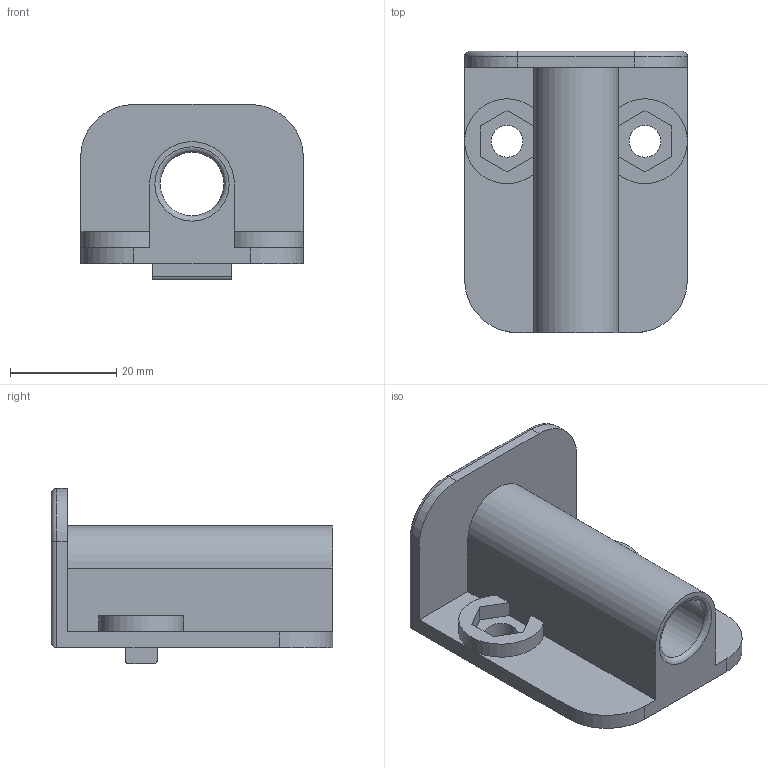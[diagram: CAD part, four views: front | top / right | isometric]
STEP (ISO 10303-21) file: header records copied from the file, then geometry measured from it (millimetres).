
FILE_DESCRIPTION(/* description */ (''),/* implementation_level */ '2;1');
FILE_NAME(/* name */ 'Tubing cut-in.step',/* time_stamp */ '2025-06-07T13:31:56-07:00',/* author */ (''),/* organization */ (''),/* preprocessor_version */ 'ST-DEVELOPER v20.1',/* originating_system */ 'Autodesk Translation Framework v14.10.0.0',/* authorisation */ '');
FILE_SCHEMA (('AUTOMOTIVE_DESIGN { 1 0 10303 214 3 1 1 }'));
Length unit declared in the file: millimetre
Products named in the file (1): Tubing cut-in
Bounding box: 42 x 53 x 33 mm (x, y, z)
Volume: 19036.7 mm3; surface area: 11074.2 mm2
Topology: 1 solids, 1 shells, 135 faces, 367 edges, 242 vertices
Faces by surface type: plane 70, bspline 46, cylinder 16, torus 3
Full cylindrical faces by diameter (mm): 6 x2, 12 x1
Entity records: 4699 total; most frequent: CARTESIAN_POINT 1527, ORIENTED_EDGE 734, DIRECTION 492, EDGE_CURVE 367, VERTEX_POINT 242, LINE 238, VECTOR 238, EDGE_LOOP 149
